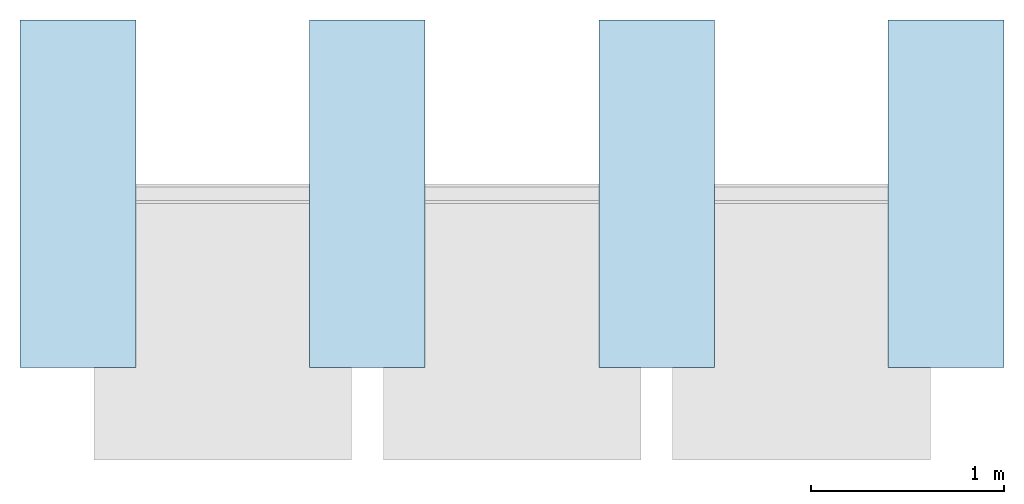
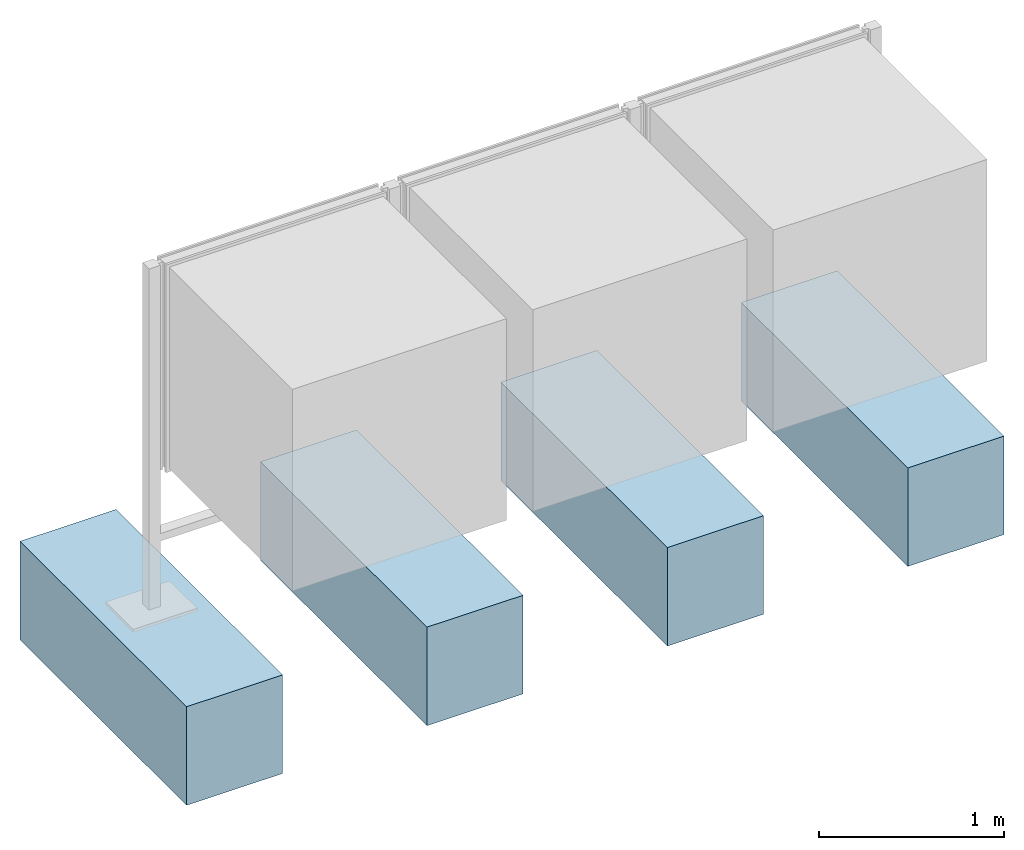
# One storey, incomplete: 4 slabs.
"""IFC4 building model written with IfcOpenShell, lengths in metres."""

import ifcopenshell
import ifcopenshell.guid

model = None  # the IFC model being written
_history = None  # IfcOwnerHistory: only IFC2X3 demands one
_inside = {}  # id of a spatial element -> (the spatial element, [elements in it])
_under = {}  # id of a project, library or spatial element -> (it, [spatial elements below it])
_declared = {}  # id of a project -> (the project, [libraries it declares])
_typed = {}  # id of a type object -> (the type object, [elements of that type])
_made_of = {}  # id of a material, layer set ... -> (it, [elements and type objects made of it])


def new_model(schema):
    """Start an empty IFC model of exactly this schema.

    Asked for "IFC4X3", IfcOpenShell would pick the latest addendum, in which some entities
    have other attributes; the version numbers below select the first issue.
    IFC2X3 requires an IfcOwnerHistory on every rooted entity: one is made here for all.
    """
    global model, _history
    if schema == "IFC4X3":
        model = ifcopenshell.file(schema_version=(4, 3, 0, 0))
    else:
        model = ifcopenshell.file(schema=schema)
    _inside.clear()
    _under.clear()
    _declared.clear()
    _typed.clear()
    _made_of.clear()
    _history = None
    if model.schema == "IFC2X3":
        org = make("IfcOrganization", Name="unknown")
        user = make(
            "IfcPersonAndOrganization",
            ThePerson=make("IfcPerson", FamilyName="unknown"),
            TheOrganization=org,
        )
        app = make(
            "IfcApplication",
            ApplicationDeveloper=org,
            Version="unknown",
            ApplicationFullName="unknown",
            ApplicationIdentifier="unknown",
        )
        _history = make(
            "IfcOwnerHistory",
            OwningUser=user,
            OwningApplication=app,
            ChangeAction="ADDED",
            CreationDate=0,
        )
    return model


def make(cls, **values):
    """One entity of the class cls with the attributes given. An attribute that is None is left unset."""
    return model.create_entity(
        cls, **{name: value for name, value in values.items() if value is not None}
    )


def entity(cls, *values):
    """Any entity or typed value of the class cls, its attributes in the order of the schema. None: left unset."""
    e = model.create_entity(cls)
    for i, value in enumerate(values):
        if value is not None:
            e[i] = value
    return e


def rooted(cls, **values):
    """An entity with a GlobalId (a new one), such as an element, a storey or a relation."""
    return make(cls, GlobalId=ifcopenshell.guid.new(), OwnerHistory=_history, **values)


def si_unit(unit_type, name, prefix=None):
    """IfcSIUnit, for example si_unit("LENGTHUNIT", "METRE", prefix="MILLI")."""
    return make("IfcSIUnit", UnitType=unit_type, Prefix=prefix, Name=name)


def converted_unit(unit_type, name, factor, base, dimensions=None, offset=None):
    """IfcConversionBasedUnit, such as the inch: factor (a typed value) times the base unit."""
    return make(
        "IfcConversionBasedUnit"
        if offset is None
        else "IfcConversionBasedUnitWithOffset",
        ConversionOffset=offset,
        Dimensions=None
        if dimensions is None
        else entity("IfcDimensionalExponents", *dimensions),
        UnitType=unit_type,
        Name=name,
        ConversionFactor=make(
            "IfcMeasureWithUnit", ValueComponent=factor, UnitComponent=base
        ),
    )


def assignment(units):
    """IfcUnitAssignment: the units of a project."""
    return None if units is None else make("IfcUnitAssignment", Units=units)


def point(xyz):
    """IfcCartesianPoint."""
    return None if xyz is None else make("IfcCartesianPoint", Coordinates=xyz)


def direction(xyz):
    """IfcDirection."""
    return None if xyz is None else make("IfcDirection", DirectionRatios=xyz)


def frame(location, z_axis=None, x_axis=None):
    """IfcAxis2Placement3D, a coordinate frame: its origin and axes. An axis left out is left unset."""
    return make(
        "IfcAxis2Placement3D",
        Location=point(location),
        Axis=direction(z_axis),
        RefDirection=direction(x_axis),
    )


def frame_2d(location, x_axis=None):
    """IfcAxis2Placement2D, a coordinate frame in the plane: its origin and x axis."""
    return make(
        "IfcAxis2Placement2D", Location=point(location), RefDirection=direction(x_axis)
    )


def origin():
    """The frame at (0, 0, 0) with its axes left unset."""
    return frame((0.0, 0.0, 0.0))


def origin_2d_with_axis():
    """The frame at (0, 0) in the plane with the x axis (1, 0) written out."""
    return frame_2d((0.0, 0.0), x_axis=(1.0, 0.0))


def place(relative_to, where):
    """IfcLocalPlacement: puts the frame where relative to a parent placement (None: the world)."""
    return make(
        "IfcLocalPlacement", PlacementRelTo=relative_to, RelativePlacement=where
    )


def context(
    kind, dimensions, precision=None, world=None, true_north=None, identifier=None
):
    """IfcGeometricRepresentationContext, for example the 3D "Model" context."""
    return make(
        "IfcGeometricRepresentationContext",
        ContextIdentifier=identifier,
        ContextType=kind,
        CoordinateSpaceDimension=dimensions,
        Precision=precision,
        WorldCoordinateSystem=world,
        TrueNorth=true_north,
    )


def subcontext(parent, identifier, kind, view, scale=None):
    """IfcGeometricRepresentationSubContext, for example "Body" below "Model"."""
    return make(
        "IfcGeometricRepresentationSubContext",
        ContextIdentifier=identifier,
        ContextType=kind,
        ParentContext=parent,
        TargetScale=scale,
        TargetView=view,
    )


def project(units=None, contexts=None):
    """IfcProject with its units and contexts."""
    return rooted(
        "IfcProject",
        Name="project",
        RepresentationContexts=contexts,
        UnitsInContext=assignment(units),
    )


def spatial(cls, under=None, at=None, **own):
    """A site, building, storey or space (cls), placed at a placement, below another one or the project."""
    s = rooted(cls, ObjectPlacement=at, **own)
    if under is not None:
        _under.setdefault(under.id(), (under, []))[1].append(s)
    return s


def profile(cls, at=None, kind="AREA", **sizes):
    """A parametric profile (cls). Its sizes go by their IFC names, for example OverallWidth=200.0."""
    return make(cls, ProfileType=kind, Position=at, **sizes)


def rectangle(**sizes):
    """IfcRectangleProfileDef."""
    return profile("IfcRectangleProfileDef", **sizes)


def extrude(swept, where, along, depth):
    """IfcExtrudedAreaSolid: the profile swept, set in the frame where, extruded along a direction by depth."""
    return make(
        "IfcExtrudedAreaSolid",
        SweptArea=swept,
        Position=where,
        ExtrudedDirection=direction(along),
        Depth=depth,
    )


def shape(context_of_items, identifier, shape_type, items):
    """IfcShapeRepresentation: the items that make up one representation, for example the "Body"."""
    return make(
        "IfcShapeRepresentation",
        ContextOfItems=context_of_items,
        RepresentationIdentifier=identifier,
        RepresentationType=shape_type,
        Items=items,
    )


def material(Name=None, Category=None):
    """IfcMaterial."""
    return make("IfcMaterial", Name=Name, Category=Category)


def made_of(thing, what):
    """Note that an element or type object is made of a material, layer set ...; save() writes the relation."""
    if what is not None:
        _made_of.setdefault(what.id(), (what, []))[1].append(thing)
    return thing


def type_object(cls, material=None, **own):
    """A type object (cls), such as IfcWallType, which elements share."""
    return made_of(rooted(cls, **own), material)


def element(
    cls,
    number,
    at=None,
    inside=None,
    cuts=None,
    type_object=None,
    material=None,
    context=None,
    identifier="Body",
    shape_type=None,
    held_by="IfcProductDefinitionShape",
    body=None,
    shapes=None,
    **own,
):
    """One element of the class cls, such as IfcWall. Its Tag is "e" and its number.

    at: its placement. inside: the storey or other place that contains it. cuts: it is an
    opening in that element (IfcRelVoidsElement). A single representation is given by context,
    identifier, shape_type and body (its items); several are given by shapes. held_by: the class
    of the entity that holds the representations. save() writes the other relations.
    """
    e = rooted(cls, Tag="e%d" % number, ObjectPlacement=at, **own)
    if body is not None:
        shapes = [shape(context, identifier, shape_type, body)]
    if shapes is not None:
        e.Representation = make(held_by, Representations=shapes)
    if inside is not None:
        _inside.setdefault(inside.id(), (inside, []))[1].append(e)
    if cuts is not None:
        rooted(
            "IfcRelVoidsElement", RelatingBuildingElement=cuts, RelatedOpeningElement=e
        )
    if type_object is not None:
        _typed.setdefault(type_object.id(), (type_object, []))[1].append(e)
    return made_of(e, material)


def aggregate(whole, parts):
    """IfcRelAggregates: a whole, such as a stair, and the parts it consists of."""
    return rooted("IfcRelAggregates", RelatingObject=whole, RelatedObjects=parts)


def save(model, path):
    """Write the relations noted so far, then the file.

    IfcRelAggregates (storeys below a building ...), IfcRelContainedInSpatialStructure (elements
    in a storey), IfcRelDefinesByType, IfcRelAssociatesMaterial and IfcRelDeclares: one each for
    every whole, place, type object, material and project.
    """
    for whole, parts in _under.values():
        aggregate(whole, parts)
    for where, things in _inside.values():
        rooted(
            "IfcRelContainedInSpatialStructure",
            RelatedElements=things,
            RelatingStructure=where,
        )
    for kind, things in _typed.values():
        rooted("IfcRelDefinesByType", RelatedObjects=things, RelatingType=kind)
    for what, things in _made_of.values():
        rooted("IfcRelAssociatesMaterial", RelatedObjects=things, RelatingMaterial=what)
    for by, libraries in _declared.values():
        rooted("IfcRelDeclares", RelatingContext=by, RelatedDefinitions=libraries)
    model.write(path)


model = new_model("IFC4")

# Units and contexts
model_context = context("Model", 3, precision=1e-05, world=origin(), true_north=direction((6.123031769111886e-17, 1.0)))
body_context = subcontext(model_context, "Body", "Model", "MODEL_VIEW")
ifc_project = project(units=[si_unit("LENGTHUNIT", "METRE"), converted_unit("PLANEANGLEUNIT", "DEGREE", entity("IfcPlaneAngleMeasure", 0.017453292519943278), si_unit("PLANEANGLEUNIT", "RADIAN"), dimensions=[0, 0, 0, 0, 0, 0, 0]), si_unit("AREAUNIT", "SQUARE_METRE")], contexts=[model_context])

# Site, building, storey
site_placement = place(None, origin())
site = spatial("IfcSite", under=ifc_project, at=site_placement, Name="Default", CompositionType="ELEMENT")
building_placement = place(site_placement, origin())
building = spatial("IfcBuilding", under=site, at=building_placement, CompositionType="ELEMENT")
storey_placement = place(building_placement, origin())
storey = spatial("IfcBuildingStorey", under=building, at=storey_placement, Name="DB_Bezugshoehe_max_Bahnsteigkante", CompositionType="ELEMENT", Elevation=0.0)

# Slabs
ifc_material = material(Name="DB_Ortbeton", Category="DB_Beton")
slab_type = type_object("IfcSlabType", Name="DB_Vitrine_Fundament:DB_Vitrine_Fundament", PredefinedType="BASESLAB", material=ifc_material)
slab_1_placement = place(storey_placement, origin())
element("IfcSlab", 1, at=slab_1_placement, inside=storey, type_object=slab_type, Name="DB_Vitrine_Fundament:DB_Vitrine_Fundament", ObjectType="DB_Vitrine_Fundament:DB_Vitrine_Fundament", PredefinedType="BASESLAB", context=body_context, shape_type="SweptSolid", body=[
    extrude(rectangle(XDim=1.8, YDim=0.5999999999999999, at=origin_2d_with_axis()), frame((-0.0006257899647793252, 0.0, 0.04999999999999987), z_axis=(0.0, 0.0, 1.0), x_axis=(0.0, 1.0, 0.0)), (0.0, 0.0, 1.0), 0.5999999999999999),
    extrude(rectangle(XDim=0.5999999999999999, YDim=1.7999999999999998, at=origin_2d_with_axis()), frame((-0.0006257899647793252, 0.0, 0.0), z_axis=(0.0, 0.0, 1.0), x_axis=(-1.0, 0.0, 0.0)), (0.0, 0.0, 1.0), 0.04999999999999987),
])
slab_2_placement = place(storey_placement, origin())
element("IfcSlab", 2, at=slab_2_placement, inside=storey, type_object=slab_type, Name="DB_Vitrine_Fundament:DB_Vitrine_Fundament", ObjectType="DB_Vitrine_Fundament:DB_Vitrine_Fundament", PredefinedType="BASESLAB", context=body_context, shape_type="SweptSolid", body=[
    extrude(rectangle(XDim=1.8, YDim=0.5999999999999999, at=frame_2d((0.0, -8.326672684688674e-17), x_axis=(1.0, 0.0))), frame((1.4993742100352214, 0.0, 0.04999999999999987), z_axis=(0.0, 0.0, 1.0), x_axis=(0.0, 1.0, 0.0)), (0.0, 0.0, 1.0), 0.5999999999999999),
    extrude(rectangle(XDim=0.5999999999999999, YDim=1.7999999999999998, at=frame_2d((-1.3877787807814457e-16, 0.0), x_axis=(1.0, 0.0))), frame((1.4993742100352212, 0.0, 0.0), z_axis=(0.0, 0.0, 1.0), x_axis=(-1.0, 0.0, 0.0)), (0.0, 0.0, 1.0), 0.04999999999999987),
])
slab_3_placement = place(storey_placement, origin())
element("IfcSlab", 3, at=slab_3_placement, inside=storey, type_object=slab_type, Name="DB_Vitrine_Fundament:DB_Vitrine_Fundament", ObjectType="DB_Vitrine_Fundament:DB_Vitrine_Fundament", PredefinedType="BASESLAB", context=body_context, shape_type="SweptSolid", body=[
    extrude(rectangle(XDim=1.8, YDim=0.6000000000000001, at=origin_2d_with_axis()), frame((2.9993742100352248, 0.0, 0.04999999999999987), z_axis=(0.0, 0.0, 1.0), x_axis=(0.0, 1.0, 0.0)), (0.0, 0.0, 1.0), 0.5999999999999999),
    extrude(rectangle(XDim=0.6000000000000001, YDim=1.7999999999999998, at=origin_2d_with_axis()), frame((2.9993742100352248, 0.0, 0.0), z_axis=(0.0, 0.0, 1.0), x_axis=(-1.0, 0.0, 0.0)), (0.0, 0.0, 1.0), 0.04999999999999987),
])
slab_4_placement = place(storey_placement, origin())
element("IfcSlab", 4, at=slab_4_placement, inside=storey, type_object=slab_type, Name="DB_Vitrine_Fundament:DB_Vitrine_Fundament", ObjectType="DB_Vitrine_Fundament:DB_Vitrine_Fundament", PredefinedType="BASESLAB", context=body_context, shape_type="SweptSolid", body=[
    extrude(rectangle(XDim=1.8, YDim=0.6000000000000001, at=origin_2d_with_axis()), frame((4.499374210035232, 0.0, 0.04999999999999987), z_axis=(0.0, 0.0, 1.0), x_axis=(0.0, 1.0, 0.0)), (0.0, 0.0, 1.0), 0.5999999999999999),
    extrude(rectangle(XDim=0.6000000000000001, YDim=1.7999999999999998, at=origin_2d_with_axis()), frame((4.499374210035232, 0.0, 0.0), z_axis=(0.0, 0.0, 1.0), x_axis=(-1.0, 0.0, 0.0)), (0.0, 0.0, 1.0), 0.04999999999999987),
])

save(model, "model.ifc")
